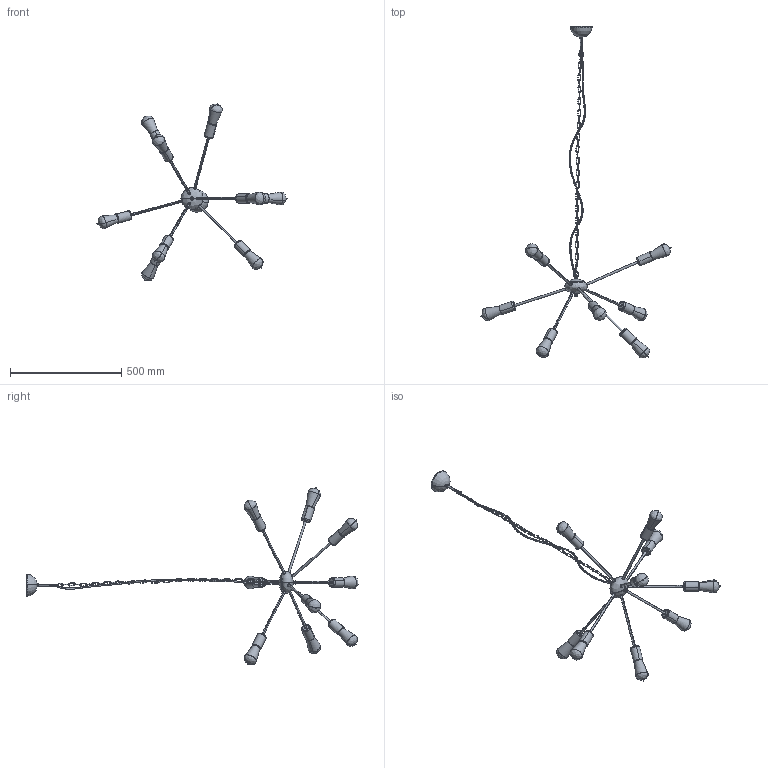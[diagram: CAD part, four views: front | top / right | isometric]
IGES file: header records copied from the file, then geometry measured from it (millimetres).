
Start section: SolidWorks IGES file using analytic representation for surfaces
Global section: file name: Z:\Modele 3D_WWW\_KOLEKCJE_WWW\ROD\ROD-IX-9734-9130\ROD-IX-9734-9130.IGS; native system: SolidWorks 2021; preprocessor: SolidWorks 2021; author: gabriela.tworek; date: 210623.154418; units: millimetre
Bounding box: 853.44 x 1490.67 x 796.62 mm (x, y, z)
Surface area: 605010.9 mm2 (no closed solid volume)
Topology: 0 solids, 0 shells, 1467 faces, 17638 edges, 17602 vertices
Faces by surface type: revolution 761, bspline 706
